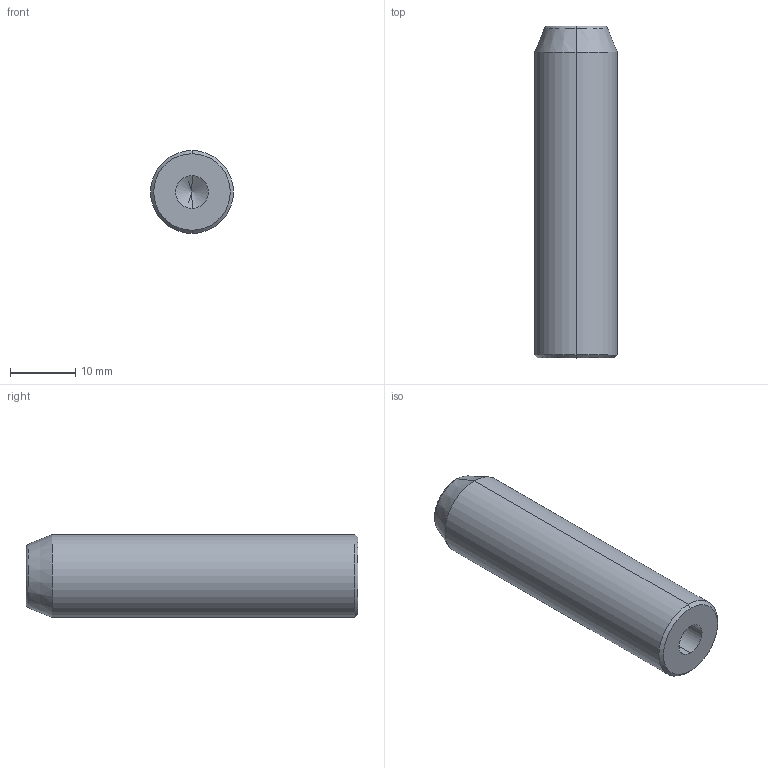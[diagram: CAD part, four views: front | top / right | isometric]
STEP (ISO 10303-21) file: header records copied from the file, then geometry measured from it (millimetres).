
FILE_DESCRIPTION (( 'STEP AP203' ), '1' );
FILE_NAME ('(STEP)M-PD-2.STEP', '2020-03-31T03:34:39', ( '' ), ( '' ), 'SwSTEP 2.0', 'SolidWorks 2019', '' );
FILE_SCHEMA (( 'CONFIG_CONTROL_DESIGN' ));
Length unit declared in the file: millimetre
Products named in the file (1): (STEP)M-PD-2
Bounding box: 12.7 x 50.8 x 12.7 mm (x, y, z)
Volume: 5997.7 mm3; surface area: 2482.7 mm2
Topology: 1 solids, 1 shells, 18 faces, 38 edges, 20 vertices
Faces by surface type: cone 8, cylinder 6, torus 2, plane 2
Entity records: 531 total; most frequent: DIRECTION 92, CARTESIAN_POINT 73, ORIENTED_EDGE 68, AXIS2_PLACEMENT_3D 39, EDGE_CURVE 34, CIRCLE 20, VERTEX_POINT 20, EDGE_LOOP 20
